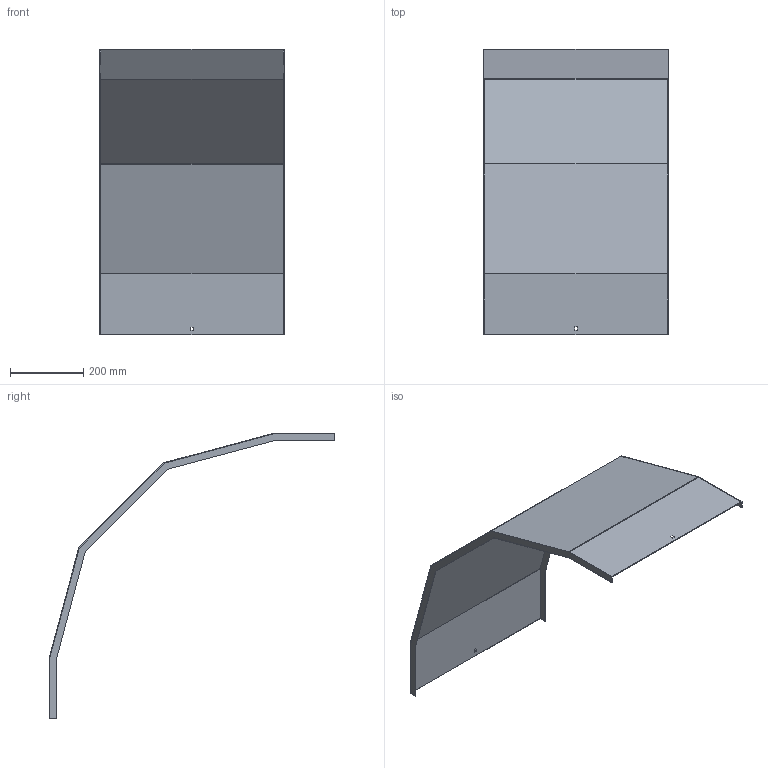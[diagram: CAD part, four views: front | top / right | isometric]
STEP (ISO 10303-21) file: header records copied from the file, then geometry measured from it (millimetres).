
FILE_DESCRIPTION (( 'STEP AP214' ), '1' );
FILE_NAME ('A2_33N5J500.step', '2025-02-21T10:46:03', ( '' ), ( '' ), 'SwSTEP 2.0', 'SolidWorks 2023', '' );
FILE_SCHEMA (( 'AUTOMOTIVE_DESIGN' ));
Length unit declared in the file: millimetre
Products named in the file (1): A2_33N5J500
Bounding box: 503 x 779.96 x 779.96 mm (x, y, z)
Volume: 1037980.5 mm3; surface area: 1389446.7 mm2
Topology: 1 solids, 1 shells, 34 faces, 96 edges, 64 vertices
Faces by surface type: plane 34
Entity records: 1111 total; most frequent: CARTESIAN_POINT 195, ORIENTED_EDGE 192, DIRECTION 166, LINE 96, EDGE_CURVE 96, VECTOR 96, VERTEX_POINT 64, EDGE_LOOP 38
